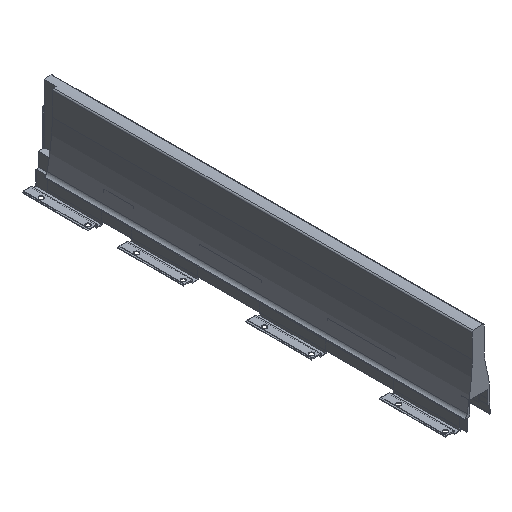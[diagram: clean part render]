
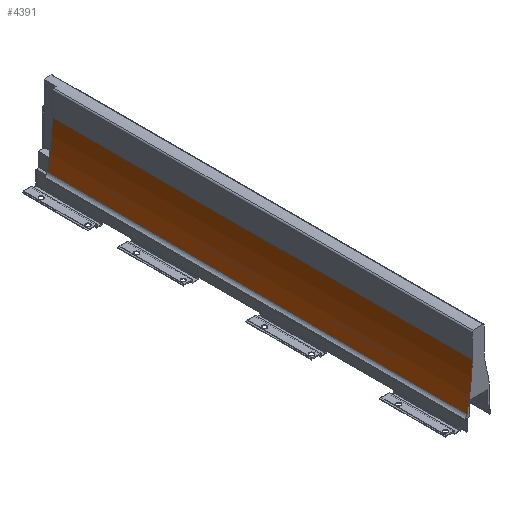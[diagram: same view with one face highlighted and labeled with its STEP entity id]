
A CAD part, isometric view. The second image highlights one B-rep face of the part: STEP entity #4391.
In plain terms, the highlighted cylindrical face has radius 350 mm (diameter 700 mm), a partial arc.
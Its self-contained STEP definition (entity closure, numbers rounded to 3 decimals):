
#56 = CARTESIAN_POINT ( 'NONE',  ( -27.279, 590., -13.745 ) ) ;
#57 = DIRECTION ( 'NONE',  ( 0., -1., 0. ) ) ;
#58 = CARTESIAN_POINT ( 'NONE',  ( -369.736, 573.8, 58.528 ) ) ;
#60 = DIRECTION ( 'NONE',  ( 0., -1., 0. ) ) ;
#61 = DIRECTION ( 'NONE',  ( -1., 0., 0. ) ) ;
#193 = CARTESIAN_POINT ( 'NONE',  ( -19.93, 590., 46.864 ) ) ;
#194 = DIRECTION ( 'NONE',  ( 0., -1., 0. ) ) ;
#272 = CARTESIAN_POINT ( 'NONE',  ( -369.736, 0., 58.528 ) ) ;
#297 = DIRECTION ( 'NONE',  ( 0., -1., 0. ) ) ;
#298 = DIRECTION ( 'NONE',  ( -1., 0., 0. ) ) ;
#717 = DIRECTION ( 'NONE',  ( 1., 0., 0. ) ) ;
#718 = DIRECTION ( 'NONE',  ( 0., -1., 0. ) ) ;
#719 = CARTESIAN_POINT ( 'NONE',  ( -369.736, 590., 58.528 ) ) ;
#882 = CARTESIAN_POINT ( 'NONE',  ( -27.279, 573.8, -13.745 ) ) ;
#902 = VERTEX_POINT ( 'NONE', #1123 ) ;
#937 = VERTEX_POINT ( 'NONE', #1153 ) ;
#938 = VERTEX_POINT ( 'NONE', #1154 ) ;
#1123 = CARTESIAN_POINT ( 'NONE',  ( -19.93, 573.8, 46.864 ) ) ;
#1153 = CARTESIAN_POINT ( 'NONE',  ( -27.279, 0., -13.745 ) ) ;
#1154 = CARTESIAN_POINT ( 'NONE',  ( -19.93, 0., 46.864 ) ) ;
#2589 = AXIS2_PLACEMENT_3D ( 'NONE', #58, #60, #61 ) ;
#2814 = EDGE_CURVE ( 'NONE', #5445, #937, #4993, .T. ) ;
#2818 = EDGE_CURVE ( 'NONE', #5445, #902, #4999, .T. ) ;
#2868 = AXIS2_PLACEMENT_3D ( 'NONE', #272, #297, #298 ) ;
#2908 = EDGE_CURVE ( 'NONE', #902, #938, #5112, .T. ) ;
#2971 = EDGE_CURVE ( 'NONE', #937, #938, #5207, .T. ) ;
#2973 = AXIS2_PLACEMENT_3D ( 'NONE', #719, #718, #717 ) ;
#3219 = ORIENTED_EDGE ( 'NONE', *, *, #2814, .T. ) ;
#3221 = ORIENTED_EDGE ( 'NONE', *, *, #2971, .T. ) ;
#3223 = ORIENTED_EDGE ( 'NONE', *, *, #2818, .F. ) ;
#3266 = ORIENTED_EDGE ( 'NONE', *, *, #2908, .F. ) ;
#3293 = EDGE_LOOP ( 'NONE', ( #3223, #3219, #3221, #3266 ) ) ;
#4391 = ADVANCED_FACE ( 'NONE', ( #5380 ), #5382, .F. ) ;
#4993 = LINE ( 'NONE', #56, #4994 ) ;
#4994 = VECTOR ( 'NONE', #57, 1000. ) ;
#4999 = CIRCLE ( 'NONE', #2589, 350. ) ;
#5112 = LINE ( 'NONE', #193, #5113 ) ;
#5113 = VECTOR ( 'NONE', #194, 1000. ) ;
#5207 = CIRCLE ( 'NONE', #2868, 350. ) ;
#5380 = FACE_OUTER_BOUND ( 'NONE', #3293, .T. ) ;
#5382 = CYLINDRICAL_SURFACE ( 'NONE', #2973, 350. ) ;
#5445 = VERTEX_POINT ( 'NONE', #882 ) ;
